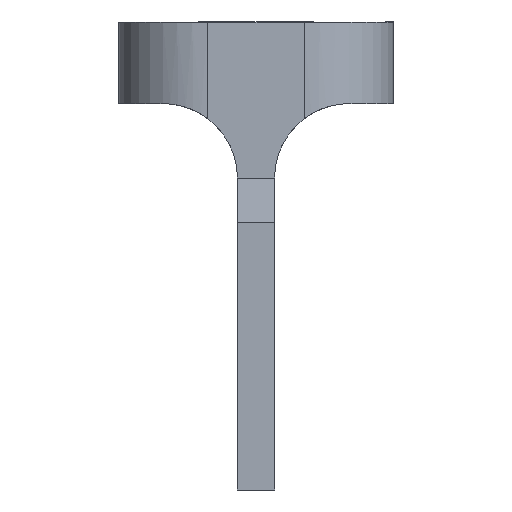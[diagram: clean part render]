
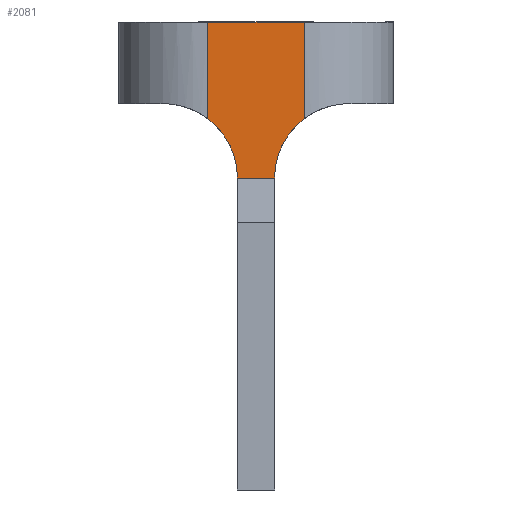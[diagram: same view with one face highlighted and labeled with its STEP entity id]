
A CAD part, left-side view. The second image highlights one B-rep face of the part: STEP entity #2081.
In plain terms, the highlighted planar face has unit normal (-1, 0, 0).
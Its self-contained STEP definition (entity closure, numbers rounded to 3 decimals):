
#69 = VECTOR ( 'NONE', #3409, 1000. ) ;
#297 = EDGE_CURVE ( 'NONE', #1651, #1627, #2873, .T. ) ;
#740 = DIRECTION ( 'NONE',  ( 0., 0., 1. ) ) ;
#983 = VECTOR ( 'NONE', #740, 1000. ) ;
#1010 = AXIS2_PLACEMENT_3D ( 'NONE', #2139, #2692, #4551 ) ;
#1140 = VERTEX_POINT ( 'NONE', #5219 ) ;
#1251 = ORIENTED_EDGE ( 'NONE', *, *, #297, .T. ) ;
#1272 = AXIS2_PLACEMENT_3D ( 'NONE', #1304, #6135, #4702 ) ;
#1304 = CARTESIAN_POINT ( 'NONE',  ( -158.5, -101.5, -117.5 ) ) ;
#1327 = EDGE_LOOP ( 'NONE', ( #5160, #2632, #3189, #1251, #6196, #3101 ) ) ;
#1376 = CARTESIAN_POINT ( 'NONE',  ( -158.5, -95.5, -96.5 ) ) ;
#1627 = VERTEX_POINT ( 'NONE', #6123 ) ;
#1651 = VERTEX_POINT ( 'NONE', #2737 ) ;
#1740 = VERTEX_POINT ( 'NONE', #1376 ) ;
#2001 = CARTESIAN_POINT ( 'NONE',  ( -158.5, -86.5, -117.5 ) ) ;
#2081 = ADVANCED_FACE ( 'NONE', ( #3154 ), #6027, .F. ) ;
#2115 = DIRECTION ( 'NONE',  ( 0., -1., 0. ) ) ;
#2139 = CARTESIAN_POINT ( 'NONE',  ( -158.5, -89., -107.5 ) ) ;
#2232 = CARTESIAN_POINT ( 'NONE',  ( -158.5, -95.5, -96.5 ) ) ;
#2363 = LINE ( 'NONE', #2232, #983 ) ;
#2632 = ORIENTED_EDGE ( 'NONE', *, *, #4855, .T. ) ;
#2692 = DIRECTION ( 'NONE',  ( 1., 0., 0. ) ) ;
#2737 = CARTESIAN_POINT ( 'NONE',  ( -158.5, -82.5, -96.5 ) ) ;
#2873 = LINE ( 'NONE', #6261, #4382 ) ;
#2895 = LINE ( 'NONE', #2001, #69 ) ;
#3001 = VERTEX_POINT ( 'NONE', #6013 ) ;
#3101 = ORIENTED_EDGE ( 'NONE', *, *, #5466, .T. ) ;
#3131 = CARTESIAN_POINT ( 'NONE',  ( -158.5, -76.5, -117.5 ) ) ;
#3154 = FACE_OUTER_BOUND ( 'NONE', #1327, .T. ) ;
#3189 = ORIENTED_EDGE ( 'NONE', *, *, #5308, .T. ) ;
#3290 = VECTOR ( 'NONE', #4274, 1000. ) ;
#3409 = DIRECTION ( 'NONE',  ( 0., -1., 0. ) ) ;
#3785 = VERTEX_POINT ( 'NONE', #5718 ) ;
#4274 = DIRECTION ( 'NONE',  ( 0., 1., 0. ) ) ;
#4382 = VECTOR ( 'NONE', #5316, 1000. ) ;
#4551 = DIRECTION ( 'NONE',  ( 0., -1., 0. ) ) ;
#4676 = CIRCLE ( 'NONE', #5170, 10. ) ;
#4702 = DIRECTION ( 'NONE',  ( 0., -1., 0. ) ) ;
#4855 = EDGE_CURVE ( 'NONE', #3785, #1740, #2363, .T. ) ;
#5081 = CIRCLE ( 'NONE', #1272, 10. ) ;
#5160 = ORIENTED_EDGE ( 'NONE', *, *, #5224, .T. ) ;
#5170 = AXIS2_PLACEMENT_3D ( 'NONE', #3131, #5179, #2115 ) ;
#5179 = DIRECTION ( 'NONE',  ( 1., 0., 0. ) ) ;
#5219 = CARTESIAN_POINT ( 'NONE',  ( -158.5, -91.5, -117.5 ) ) ;
#5224 = EDGE_CURVE ( 'NONE', #1140, #3785, #5081, .T. ) ;
#5263 = EDGE_CURVE ( 'NONE', #1627, #3001, #4676, .T. ) ;
#5308 = EDGE_CURVE ( 'NONE', #1740, #1651, #6088, .T. ) ;
#5316 = DIRECTION ( 'NONE',  ( 0., 0., -1. ) ) ;
#5466 = EDGE_CURVE ( 'NONE', #3001, #1140, #2895, .T. ) ;
#5718 = CARTESIAN_POINT ( 'NONE',  ( -158.5, -95.5, -109.5 ) ) ;
#5744 = CARTESIAN_POINT ( 'NONE',  ( -158.5, -89., -96.5 ) ) ;
#6013 = CARTESIAN_POINT ( 'NONE',  ( -158.5, -86.5, -117.5 ) ) ;
#6027 = PLANE ( 'NONE',  #1010 ) ;
#6088 = LINE ( 'NONE', #5744, #3290 ) ;
#6123 = CARTESIAN_POINT ( 'NONE',  ( -158.5, -82.5, -109.5 ) ) ;
#6135 = DIRECTION ( 'NONE',  ( 1., 0., 0. ) ) ;
#6196 = ORIENTED_EDGE ( 'NONE', *, *, #5263, .T. ) ;
#6261 = CARTESIAN_POINT ( 'NONE',  ( -158.5, -82.5, -107.5 ) ) ;
